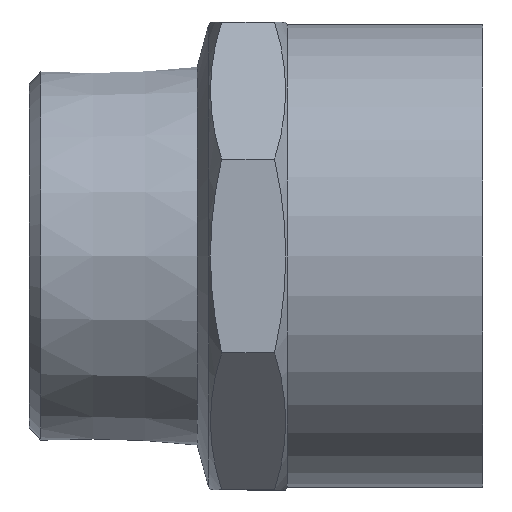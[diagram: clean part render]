
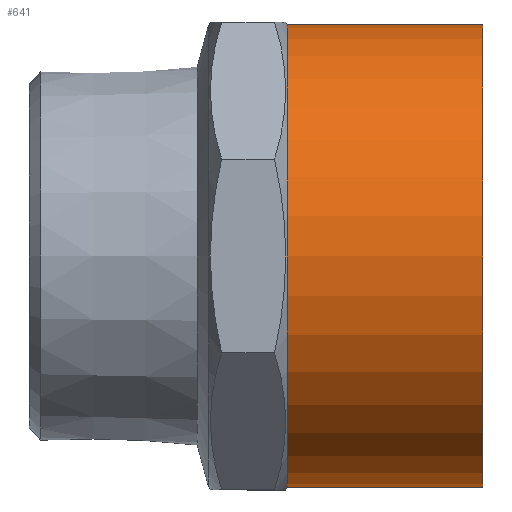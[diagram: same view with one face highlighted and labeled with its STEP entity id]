
A CAD part, front view. The second image highlights one B-rep face of the part: STEP entity #641.
In plain terms, the highlighted cylindrical face has radius 29.575 mm (diameter 59.15 mm), a full revolution.
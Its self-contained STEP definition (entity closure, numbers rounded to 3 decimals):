
#470=CARTESIAN_POINT('',(32.997,29.575,0.0));
#471=VERTEX_POINT('',#470);
#472=CARTESIAN_POINT('',(32.997,0.0,0.0));
#473=DIRECTION('',(1.0,0.0,0.0));
#474=DIRECTION('',(0.0,1.0,0.0));
#475=AXIS2_PLACEMENT_3D('',#472,#473,#474);
#476=CIRCLE('',#475,29.575);
#477=EDGE_CURVE('',#471,#471,#476,.T.);
#622=CARTESIAN_POINT('',(45.499,0.0,0.0));
#623=DIRECTION('',(1.0,0.0,0.0));
#624=DIRECTION('',(0.0,1.0,0.0));
#625=AXIS2_PLACEMENT_3D('',#622,#623,#624);
#626=CYLINDRICAL_SURFACE('',#625,29.575);
#627=CARTESIAN_POINT('',(58.,29.575,0.0));
#628=VERTEX_POINT('',#627);
#629=CARTESIAN_POINT('',(58.,0.0,0.0));
#630=DIRECTION('',(1.0,0.0,0.0));
#631=DIRECTION('',(0.0,1.0,0.0));
#632=AXIS2_PLACEMENT_3D('',#629,#630,#631);
#633=CIRCLE('',#632,29.575);
#634=EDGE_CURVE('',#628,#628,#633,.T.);
#635=ORIENTED_EDGE('',*,*,#634,.F.);
#636=EDGE_LOOP('',(#635));
#637=FACE_OUTER_BOUND('',#636,.T.);
#638=ORIENTED_EDGE('',*,*,#477,.T.);
#639=EDGE_LOOP('',(#638));
#640=FACE_BOUND('',#639,.T.);
#641=ADVANCED_FACE('',(#637,#640),#626,.T.);
